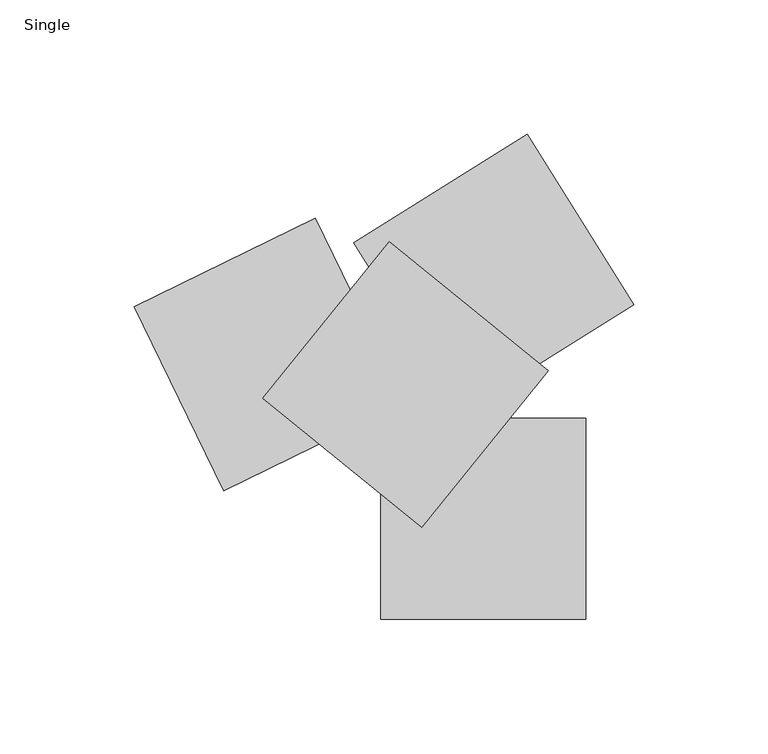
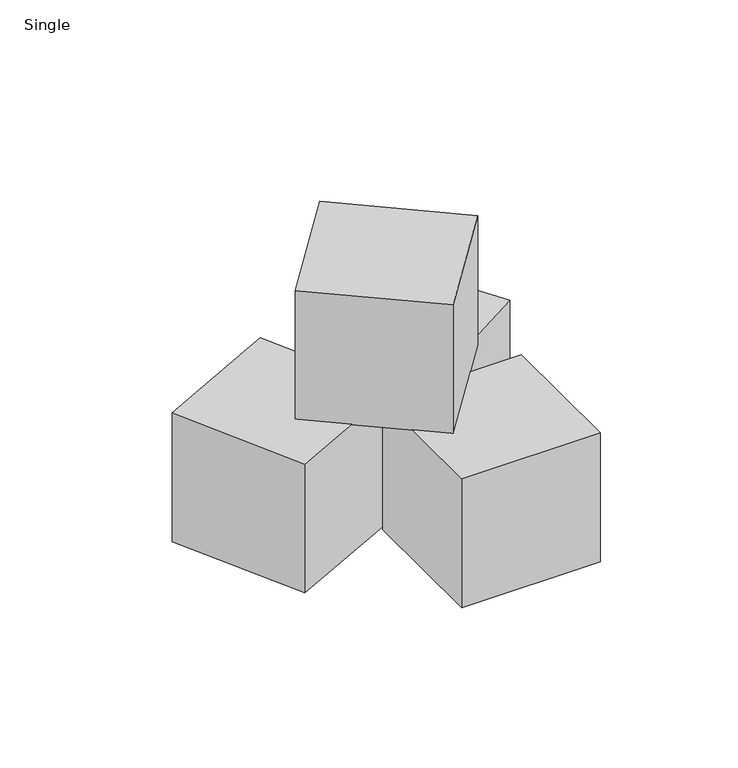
"""IFC4 building model written with IfcOpenShell, lengths in millimetres: furniture geometry, Blocks_Kid's Blocks_F00481EN : Single."""

import ifcopenshell
import ifcopenshell.guid

model = None  # the IFC model being written
_history = None  # IfcOwnerHistory: only IFC2X3 demands one
_inside = {}  # id of a spatial element -> (the spatial element, [elements in it])
_under = {}  # id of a project, library or spatial element -> (it, [spatial elements below it])
_declared = {}  # id of a project -> (the project, [libraries it declares])
_typed = {}  # id of a type object -> (the type object, [elements of that type])
_made_of = {}  # id of a material, layer set ... -> (it, [elements and type objects made of it])


def new_model(schema):
    """Start an empty IFC model of exactly this schema.

    Asked for "IFC4X3", IfcOpenShell would pick the latest addendum, in which some entities
    have other attributes; the version numbers below select the first issue.
    IFC2X3 requires an IfcOwnerHistory on every rooted entity: one is made here for all.
    """
    global model, _history
    if schema == "IFC4X3":
        model = ifcopenshell.file(schema_version=(4, 3, 0, 0))
    else:
        model = ifcopenshell.file(schema=schema)
    _inside.clear()
    _under.clear()
    _declared.clear()
    _typed.clear()
    _made_of.clear()
    _history = None
    if model.schema == "IFC2X3":
        org = make("IfcOrganization", Name="unknown")
        user = make(
            "IfcPersonAndOrganization",
            ThePerson=make("IfcPerson", FamilyName="unknown"),
            TheOrganization=org,
        )
        app = make(
            "IfcApplication",
            ApplicationDeveloper=org,
            Version="unknown",
            ApplicationFullName="unknown",
            ApplicationIdentifier="unknown",
        )
        _history = make(
            "IfcOwnerHistory",
            OwningUser=user,
            OwningApplication=app,
            ChangeAction="ADDED",
            CreationDate=0,
        )
    return model


def make(cls, **values):
    """One entity of the class cls with the attributes given. An attribute that is None is left unset."""
    return model.create_entity(
        cls, **{name: value for name, value in values.items() if value is not None}
    )


def rooted(cls, **values):
    """An entity with a GlobalId (a new one), such as an element, a storey or a relation."""
    return make(cls, GlobalId=ifcopenshell.guid.new(), OwnerHistory=_history, **values)


def si_unit(unit_type, name, prefix=None):
    """IfcSIUnit, for example si_unit("LENGTHUNIT", "METRE", prefix="MILLI")."""
    return make("IfcSIUnit", UnitType=unit_type, Prefix=prefix, Name=name)


def assignment(units):
    """IfcUnitAssignment: the units of a project."""
    return None if units is None else make("IfcUnitAssignment", Units=units)


def point(xyz):
    """IfcCartesianPoint."""
    return None if xyz is None else make("IfcCartesianPoint", Coordinates=xyz)


def direction(xyz):
    """IfcDirection."""
    return None if xyz is None else make("IfcDirection", DirectionRatios=xyz)


def frame(location, z_axis=None, x_axis=None):
    """IfcAxis2Placement3D, a coordinate frame: its origin and axes. An axis left out is left unset."""
    return make(
        "IfcAxis2Placement3D",
        Location=point(location),
        Axis=direction(z_axis),
        RefDirection=direction(x_axis),
    )


def origin():
    """The frame at (0, 0, 0) with its axes left unset."""
    return frame((0.0, 0.0, 0.0))


def origin_with_axes():
    """The frame at (0, 0, 0) with the z axis (0, 0, 1) and the x axis (1, 0, 0) written out."""
    return frame((0.0, 0.0, 0.0), z_axis=(0.0, 0.0, 1.0), x_axis=(1.0, 0.0, 0.0))


def place(relative_to, where):
    """IfcLocalPlacement: puts the frame where relative to a parent placement (None: the world)."""
    return make(
        "IfcLocalPlacement", PlacementRelTo=relative_to, RelativePlacement=where
    )


def context(
    kind, dimensions, precision=None, world=None, true_north=None, identifier=None
):
    """IfcGeometricRepresentationContext, for example the 3D "Model" context."""
    return make(
        "IfcGeometricRepresentationContext",
        ContextIdentifier=identifier,
        ContextType=kind,
        CoordinateSpaceDimension=dimensions,
        Precision=precision,
        WorldCoordinateSystem=world,
        TrueNorth=true_north,
    )


def project(units=None, contexts=None):
    """IfcProject with its units and contexts."""
    return rooted(
        "IfcProject",
        Name="project",
        RepresentationContexts=contexts,
        UnitsInContext=assignment(units),
    )


def spatial(cls, under=None, at=None, **own):
    """A site, building, storey or space (cls), placed at a placement, below another one or the project."""
    s = rooted(cls, ObjectPlacement=at, **own)
    if under is not None:
        _under.setdefault(under.id(), (under, []))[1].append(s)
    return s


def polyline(points):
    """IfcPolyline through the points."""
    return make("IfcPolyline", Points=[point(p) for p in points])


def outline(outer, holes=None, kind="AREA"):
    """IfcArbitraryClosedProfileDef: a profile drawn as a closed curve; with holes, ...WithVoids."""
    if holes is None:
        return make("IfcArbitraryClosedProfileDef", ProfileType=kind, OuterCurve=outer)
    return make(
        "IfcArbitraryProfileDefWithVoids",
        ProfileType=kind,
        OuterCurve=outer,
        InnerCurves=holes,
    )


def extrude(swept, where, along, depth):
    """IfcExtrudedAreaSolid: the profile swept, set in the frame where, extruded along a direction by depth."""
    return make(
        "IfcExtrudedAreaSolid",
        SweptArea=swept,
        Position=where,
        ExtrudedDirection=direction(along),
        Depth=depth,
    )


def shape(context_of_items, identifier, shape_type, items):
    """IfcShapeRepresentation: the items that make up one representation, for example the "Body"."""
    return make(
        "IfcShapeRepresentation",
        ContextOfItems=context_of_items,
        RepresentationIdentifier=identifier,
        RepresentationType=shape_type,
        Items=items,
    )


def source(mapping_origin, context_of_items, identifier, shape_type, items):
    """IfcRepresentationMap: a shape defined once, which mapped items show again and again."""
    return make(
        "IfcRepresentationMap",
        MappingOrigin=mapping_origin,
        MappedRepresentation=shape(context_of_items, identifier, shape_type, items),
    )


def transform(
    local_origin,
    x_axis=None,
    y_axis=None,
    z_axis=None,
    scale=None,
    scale2=None,
    scale3=None,
    uniform=True,
):
    """IfcCartesianTransformationOperator3D, or its non-uniform kind. x_axis, y_axis, z_axis: its Axis1, 2, 3."""
    if uniform:
        return make(
            "IfcCartesianTransformationOperator3D",
            Axis1=direction(x_axis),
            Axis2=direction(y_axis),
            LocalOrigin=point(local_origin),
            Scale=scale,
            Axis3=direction(z_axis),
        )
    return make(
        "IfcCartesianTransformationOperator3DnonUniform",
        Axis1=direction(x_axis),
        Axis2=direction(y_axis),
        LocalOrigin=point(local_origin),
        Scale=scale,
        Axis3=direction(z_axis),
        Scale2=scale2,
        Scale3=scale3,
    )


def mapped(mapping_source, mapping_target):
    """IfcMappedItem: shows the shape of a source again, moved by a transform."""
    return make(
        "IfcMappedItem", MappingSource=mapping_source, MappingTarget=mapping_target
    )


def made_of(thing, what):
    """Note that an element or type object is made of a material, layer set ...; save() writes the relation."""
    if what is not None:
        _made_of.setdefault(what.id(), (what, []))[1].append(thing)
    return thing


def element(
    cls,
    number,
    at=None,
    inside=None,
    cuts=None,
    type_object=None,
    material=None,
    context=None,
    identifier="Body",
    shape_type=None,
    held_by="IfcProductDefinitionShape",
    body=None,
    shapes=None,
    **own,
):
    """One element of the class cls, such as IfcWall. Its Tag is "e" and its number.

    at: its placement. inside: the storey or other place that contains it. cuts: it is an
    opening in that element (IfcRelVoidsElement). A single representation is given by context,
    identifier, shape_type and body (its items); several are given by shapes. held_by: the class
    of the entity that holds the representations. save() writes the other relations.
    """
    e = rooted(cls, Tag="e%d" % number, ObjectPlacement=at, **own)
    if body is not None:
        shapes = [shape(context, identifier, shape_type, body)]
    if shapes is not None:
        e.Representation = make(held_by, Representations=shapes)
    if inside is not None:
        _inside.setdefault(inside.id(), (inside, []))[1].append(e)
    if cuts is not None:
        rooted(
            "IfcRelVoidsElement", RelatingBuildingElement=cuts, RelatedOpeningElement=e
        )
    if type_object is not None:
        _typed.setdefault(type_object.id(), (type_object, []))[1].append(e)
    return made_of(e, material)


def aggregate(whole, parts):
    """IfcRelAggregates: a whole, such as a stair, and the parts it consists of."""
    return rooted("IfcRelAggregates", RelatingObject=whole, RelatedObjects=parts)


def save(model, path):
    """Write the relations noted so far, then the file.

    IfcRelAggregates (storeys below a building ...), IfcRelContainedInSpatialStructure (elements
    in a storey), IfcRelDefinesByType, IfcRelAssociatesMaterial and IfcRelDeclares: one each for
    every whole, place, type object, material and project.
    """
    for whole, parts in _under.values():
        aggregate(whole, parts)
    for where, things in _inside.values():
        rooted(
            "IfcRelContainedInSpatialStructure",
            RelatedElements=things,
            RelatingStructure=where,
        )
    for kind, things in _typed.values():
        rooted("IfcRelDefinesByType", RelatedObjects=things, RelatingType=kind)
    for what, things in _made_of.values():
        rooted("IfcRelAssociatesMaterial", RelatedObjects=things, RelatingMaterial=what)
    for by, libraries in _declared.values():
        rooted("IfcRelDeclares", RelatingContext=by, RelatedDefinitions=libraries)
    model.write(path)


def single_8627b193(model_context):
    return source(origin(), model_context, "Body", "SweptSolid", [
        extrude(outline(polyline([(64.2483207, -14.0), (64.2483207, -89.0), (-11.9953349, -89.0), (-11.9953349, -14.0), (64.2483207, -14.0)])), origin_with_axes(), (0.0, 0.0, 1.0), 75.0),
        extrude(outline(polyline([(-3.1004662, -8.1597049), (-70.5100197, -41.037541), (-103.9330384, 27.4898027), (-36.5234849, 60.3676387), (-3.1004662, -8.1597049)])), origin_with_axes(), (0.0, 0.0, 1.0), 75.0),
        extrude(outline(polyline([(17.5326474, -12.2536411), (-22.2112974, 51.3499661), (42.4469895, 91.752948), (82.1909343, 28.1493408), (17.5326474, -12.2536411)])), origin_with_axes(), (0.0, 0.0, 1.0), 75.0),
        extrude(outline(polyline([(-56.0399016, -6.65213), (-8.8408723, 51.6338171), (50.4115767, 3.65213), (3.2125474, -54.6338171), (-56.0399016, -6.65213)])), frame((0.0, 0.0, 75.0), z_axis=(0.0, 0.0, 1.0), x_axis=(1.0, 0.0, 0.0)), (0.0, 0.0, 1.0), 75.0),
    ])


if __name__ == "__main__":
    model = new_model("IFC4")
    model_context = context("Model", 3, world=origin())
    ifc_project = project(units=[si_unit("LENGTHUNIT", "METRE", prefix="MILLI")], contexts=[model_context])
    site = spatial("IfcSite", under=ifc_project)
    building = spatial("IfcBuilding", under=site)
    placement = place(None, origin())
    single_shape = single_8627b193(model_context)
    element("IfcFurniture", 1, ObjectType="Blocks_Kid's Blocks_F00481EN : Single", at=placement, inside=building, context=model_context, shape_type="MappedRepresentation", body=[
        mapped(single_shape, transform((0.0, 0.0, 0.0), x_axis=(1.0, 0.0, 0.0), y_axis=(0.0, 1.0, 0.0), z_axis=(0.0, 0.0, 1.0))),
    ])
    save(model, "model.ifc")
